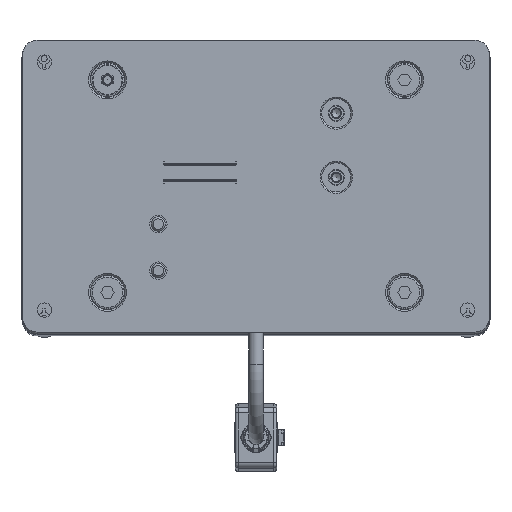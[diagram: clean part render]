
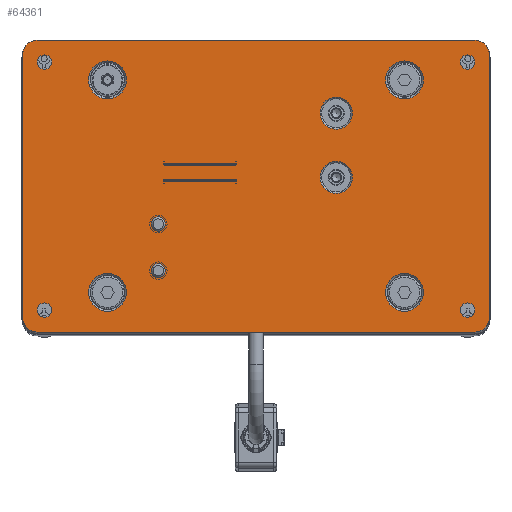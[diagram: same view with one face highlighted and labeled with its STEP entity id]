
A CAD part, top view. The second image highlights one B-rep face of the part: STEP entity #64361.
In plain terms, the highlighted planar face has unit normal (0, 0, 1).
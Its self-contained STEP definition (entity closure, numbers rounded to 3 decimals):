
#3685=LINE('',#91825,#7572);
#3689=LINE('',#91837,#7576);
#3693=LINE('',#91849,#7580);
#3696=LINE('',#91858,#7583);
#7572=VECTOR('',#75443,1000.);
#7576=VECTOR('',#75455,1000.);
#7580=VECTOR('',#75467,1000.);
#7583=VECTOR('',#75478,1000.);
#12721=ORIENTED_EDGE('',*,*,#27700,.T.);
#12722=ORIENTED_EDGE('',*,*,#27701,.T.);
#12723=ORIENTED_EDGE('',*,*,#27702,.F.);
#12724=ORIENTED_EDGE('',*,*,#27703,.F.);
#12725=ORIENTED_EDGE('',*,*,#27704,.T.);
#12726=ORIENTED_EDGE('',*,*,#27705,.T.);
#12727=ORIENTED_EDGE('',*,*,#27706,.T.);
#12728=ORIENTED_EDGE('',*,*,#27707,.T.);
#12729=ORIENTED_EDGE('',*,*,#27708,.F.);
#12730=ORIENTED_EDGE('',*,*,#27709,.F.);
#12731=ORIENTED_EDGE('',*,*,#27710,.F.);
#12732=ORIENTED_EDGE('',*,*,#27711,.F.);
#12733=ORIENTED_EDGE('',*,*,#27678,.T.);
#12734=ORIENTED_EDGE('',*,*,#27682,.T.);
#12735=ORIENTED_EDGE('',*,*,#27685,.T.);
#12736=ORIENTED_EDGE('',*,*,#27688,.T.);
#12737=ORIENTED_EDGE('',*,*,#27691,.T.);
#12738=ORIENTED_EDGE('',*,*,#27694,.T.);
#12739=ORIENTED_EDGE('',*,*,#27697,.T.);
#12740=ORIENTED_EDGE('',*,*,#27699,.T.);
#27678=EDGE_CURVE('',#35336,#35335,#40175,.T.);
#27682=EDGE_CURVE('',#35335,#35338,#3685,.T.);
#27685=EDGE_CURVE('',#35338,#35340,#40177,.T.);
#27688=EDGE_CURVE('',#35340,#35342,#3689,.T.);
#27691=EDGE_CURVE('',#35342,#35344,#40179,.T.);
#27694=EDGE_CURVE('',#35344,#35346,#3693,.T.);
#27697=EDGE_CURVE('',#35346,#35348,#40181,.T.);
#27699=EDGE_CURVE('',#35348,#35336,#3696,.T.);
#27700=EDGE_CURVE('',#35349,#35349,#40182,.T.);
#27701=EDGE_CURVE('',#35350,#35350,#40183,.T.);
#27702=EDGE_CURVE('',#35351,#35351,#40184,.T.);
#27703=EDGE_CURVE('',#35352,#35352,#40185,.T.);
#27704=EDGE_CURVE('',#35353,#35353,#40186,.T.);
#27705=EDGE_CURVE('',#35354,#35354,#40187,.T.);
#27706=EDGE_CURVE('',#35355,#35355,#40188,.T.);
#27707=EDGE_CURVE('',#35356,#35356,#40189,.T.);
#27708=EDGE_CURVE('',#35357,#35357,#40190,.T.);
#27709=EDGE_CURVE('',#35358,#35358,#40191,.T.);
#27710=EDGE_CURVE('',#35359,#35359,#40192,.T.);
#27711=EDGE_CURVE('',#35360,#35360,#40193,.T.);
#35335=VERTEX_POINT('',#91816);
#35336=VERTEX_POINT('',#91818);
#35338=VERTEX_POINT('',#91824);
#35340=VERTEX_POINT('',#91830);
#35342=VERTEX_POINT('',#91836);
#35344=VERTEX_POINT('',#91842);
#35346=VERTEX_POINT('',#91848);
#35348=VERTEX_POINT('',#91854);
#35349=VERTEX_POINT('',#91861);
#35350=VERTEX_POINT('',#91863);
#35351=VERTEX_POINT('',#91865);
#35352=VERTEX_POINT('',#91867);
#35353=VERTEX_POINT('',#91869);
#35354=VERTEX_POINT('',#91871);
#35355=VERTEX_POINT('',#91873);
#35356=VERTEX_POINT('',#91875);
#35357=VERTEX_POINT('',#91877);
#35358=VERTEX_POINT('',#91879);
#35359=VERTEX_POINT('',#91881);
#35360=VERTEX_POINT('',#91883);
#40175=CIRCLE('',#67923,5.);
#40177=CIRCLE('',#67927,5.);
#40179=CIRCLE('',#67931,5.);
#40181=CIRCLE('',#67935,5.);
#40182=CIRCLE('',#67938,5.5);
#40183=CIRCLE('',#67939,5.5);
#40184=CIRCLE('',#67940,2.459);
#40185=CIRCLE('',#67941,2.459);
#40186=CIRCLE('',#67942,6.5);
#40187=CIRCLE('',#67943,6.5);
#40188=CIRCLE('',#67944,6.5);
#40189=CIRCLE('',#67945,6.5);
#40190=CIRCLE('',#67946,2.459);
#40191=CIRCLE('',#67947,2.459);
#40192=CIRCLE('',#67948,2.459);
#40193=CIRCLE('',#67949,2.459);
#43360=EDGE_LOOP('',(#12721));
#43361=EDGE_LOOP('',(#12722));
#43362=EDGE_LOOP('',(#12723));
#43363=EDGE_LOOP('',(#12724));
#43364=EDGE_LOOP('',(#12725));
#43365=EDGE_LOOP('',(#12726));
#43366=EDGE_LOOP('',(#12727));
#43367=EDGE_LOOP('',(#12728));
#43368=EDGE_LOOP('',(#12729));
#43369=EDGE_LOOP('',(#12730));
#43370=EDGE_LOOP('',(#12731));
#43371=EDGE_LOOP('',(#12732));
#43372=EDGE_LOOP('',(#12733,#12734,#12735,#12736,#12737,#12738,#12739,#12740));
#46916=FACE_BOUND('',#43360,.T.);
#46917=FACE_BOUND('',#43361,.T.);
#46918=FACE_BOUND('',#43362,.T.);
#46919=FACE_BOUND('',#43363,.T.);
#46920=FACE_BOUND('',#43364,.T.);
#46921=FACE_BOUND('',#43365,.T.);
#46922=FACE_BOUND('',#43366,.T.);
#46923=FACE_BOUND('',#43367,.T.);
#46924=FACE_BOUND('',#43368,.T.);
#46925=FACE_BOUND('',#43369,.T.);
#46926=FACE_BOUND('',#43370,.T.);
#46927=FACE_BOUND('',#43371,.T.);
#46928=FACE_BOUND('',#43372,.T.);
#50259=PLANE('',#67937);
#64361=ADVANCED_FACE('',(#46916,#46917,#46918,#46919,#46920,#46921,#46922,
#46923,#46924,#46925,#46926,#46927,#46928),#50259,.T.);
#67923=AXIS2_PLACEMENT_3D('',#91817,#75436,#75437);
#67927=AXIS2_PLACEMENT_3D('',#91831,#75449,#75450);
#67931=AXIS2_PLACEMENT_3D('',#91843,#75461,#75462);
#67935=AXIS2_PLACEMENT_3D('',#91855,#75473,#75474);
#67937=AXIS2_PLACEMENT_3D('',#91859,#75479,#75480);
#67938=AXIS2_PLACEMENT_3D('',#91860,#75481,#75482);
#67939=AXIS2_PLACEMENT_3D('',#91862,#75483,#75484);
#67940=AXIS2_PLACEMENT_3D('',#91864,#75485,#75486);
#67941=AXIS2_PLACEMENT_3D('',#91866,#75487,#75488);
#67942=AXIS2_PLACEMENT_3D('',#91868,#75489,#75490);
#67943=AXIS2_PLACEMENT_3D('',#91870,#75491,#75492);
#67944=AXIS2_PLACEMENT_3D('',#91872,#75493,#75494);
#67945=AXIS2_PLACEMENT_3D('',#91874,#75495,#75496);
#67946=AXIS2_PLACEMENT_3D('',#91876,#75497,#75498);
#67947=AXIS2_PLACEMENT_3D('',#91878,#75499,#75500);
#67948=AXIS2_PLACEMENT_3D('',#91880,#75501,#75502);
#67949=AXIS2_PLACEMENT_3D('',#91882,#75503,#75504);
#75436=DIRECTION('',(0.,0.,1.));
#75437=DIRECTION('',(1.,0.,0.));
#75443=DIRECTION('',(1.,0.,0.));
#75449=DIRECTION('',(0.,0.,1.));
#75450=DIRECTION('',(-1.,0.,0.));
#75455=DIRECTION('',(0.,1.,0.));
#75461=DIRECTION('',(0.,0.,1.));
#75462=DIRECTION('',(1.,0.,0.));
#75467=DIRECTION('',(-1.,0.,0.));
#75473=DIRECTION('',(0.,0.,1.));
#75474=DIRECTION('',(1.,0.,0.));
#75478=DIRECTION('',(0.,-1.,0.));
#75479=DIRECTION('',(0.,0.,1.));
#75480=DIRECTION('',(1.,0.,0.));
#75481=DIRECTION('',(0.,0.,-1.));
#75482=DIRECTION('',(0.,1.,0.));
#75483=DIRECTION('',(0.,0.,-1.));
#75484=DIRECTION('',(0.,1.,0.));
#75485=DIRECTION('',(0.,0.,1.));
#75486=DIRECTION('',(1.,0.,0.));
#75487=DIRECTION('',(0.,0.,1.));
#75488=DIRECTION('',(1.,0.,0.));
#75489=DIRECTION('',(0.,0.,-1.));
#75490=DIRECTION('',(1.,0.,0.));
#75491=DIRECTION('',(0.,0.,-1.));
#75492=DIRECTION('',(1.,0.,0.));
#75493=DIRECTION('',(0.,0.,-1.));
#75494=DIRECTION('',(1.,0.,0.));
#75495=DIRECTION('',(0.,0.,-1.));
#75496=DIRECTION('',(1.,0.,0.));
#75497=DIRECTION('',(0.,0.,1.));
#75498=DIRECTION('',(1.,0.,0.));
#75499=DIRECTION('',(0.,0.,1.));
#75500=DIRECTION('',(1.,0.,0.));
#75501=DIRECTION('',(0.,0.,1.));
#75502=DIRECTION('',(1.,0.,0.));
#75503=DIRECTION('',(0.,0.,1.));
#75504=DIRECTION('',(1.,0.,0.));
#91816=CARTESIAN_POINT('',(-75.,-50.,8.));
#91817=CARTESIAN_POINT('',(-75.,-45.,8.));
#91818=CARTESIAN_POINT('',(-80.,-45.,8.));
#91824=CARTESIAN_POINT('',(75.,-50.,8.));
#91825=CARTESIAN_POINT('',(-75.,-50.,8.));
#91830=CARTESIAN_POINT('',(80.,-45.,8.));
#91831=CARTESIAN_POINT('',(75.,-45.,8.));
#91836=CARTESIAN_POINT('',(80.,45.,8.));
#91837=CARTESIAN_POINT('',(80.,-45.,8.));
#91842=CARTESIAN_POINT('',(75.,50.,8.));
#91843=CARTESIAN_POINT('',(75.,45.,8.));
#91848=CARTESIAN_POINT('',(-75.,50.,8.));
#91849=CARTESIAN_POINT('',(75.,50.,8.));
#91854=CARTESIAN_POINT('',(-80.,45.,8.));
#91855=CARTESIAN_POINT('',(-75.,45.,8.));
#91858=CARTESIAN_POINT('',(-80.,45.,8.));
#91859=CARTESIAN_POINT('',(-75.,-45.,8.));
#91860=CARTESIAN_POINT('',(27.5,3.,8.));
#91861=CARTESIAN_POINT('',(27.5,8.5,8.));
#91862=CARTESIAN_POINT('',(27.5,25.,8.));
#91863=CARTESIAN_POINT('',(27.5,30.5,8.));
#91864=CARTESIAN_POINT('',(-33.5,-13.,8.));
#91865=CARTESIAN_POINT('',(-31.042,-13.,8.));
#91866=CARTESIAN_POINT('',(-33.5,-29.,8.));
#91867=CARTESIAN_POINT('',(-31.042,-29.,8.));
#91868=CARTESIAN_POINT('',(-50.9,-36.4,8.));
#91869=CARTESIAN_POINT('',(-44.4,-36.4,8.));
#91870=CARTESIAN_POINT('',(50.9,-36.4,8.));
#91871=CARTESIAN_POINT('',(57.4,-36.4,8.));
#91872=CARTESIAN_POINT('',(50.9,36.4,8.));
#91873=CARTESIAN_POINT('',(57.4,36.4,8.));
#91874=CARTESIAN_POINT('',(-50.9,36.4,8.));
#91875=CARTESIAN_POINT('',(-44.4,36.4,8.));
#91876=CARTESIAN_POINT('',(-72.5,-42.5,8.));
#91877=CARTESIAN_POINT('',(-70.042,-42.5,8.));
#91878=CARTESIAN_POINT('',(72.5,-42.5,8.));
#91879=CARTESIAN_POINT('',(74.959,-42.5,8.));
#91880=CARTESIAN_POINT('',(72.5,42.5,8.));
#91881=CARTESIAN_POINT('',(74.959,42.5,8.));
#91882=CARTESIAN_POINT('',(-72.5,42.5,8.));
#91883=CARTESIAN_POINT('',(-70.042,42.5,8.));
